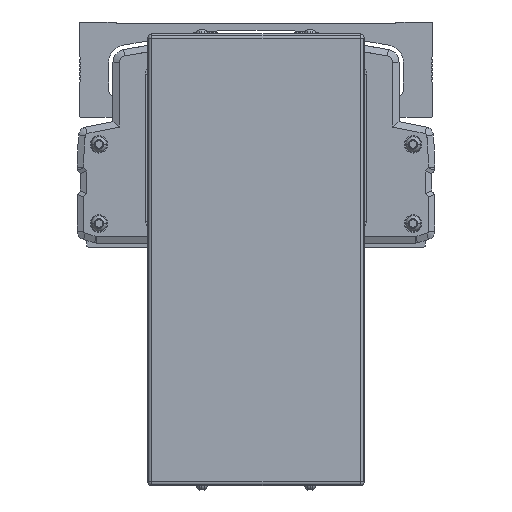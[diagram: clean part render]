
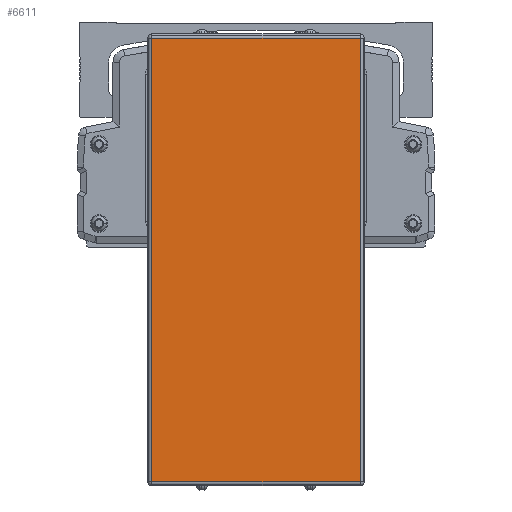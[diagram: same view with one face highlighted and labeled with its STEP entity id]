
A CAD part, front view. The second image highlights one B-rep face of the part: STEP entity #6611.
In plain terms, the highlighted planar face has unit normal (0, -1, 0).
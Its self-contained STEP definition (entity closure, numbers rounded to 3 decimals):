
#6611=ADVANCED_FACE('',(#13540),#13541,.T.);
#13540=FACE_OUTER_BOUND('',#22972,.T.);
#13541=PLANE('',#22973);
#22972=EDGE_LOOP('',(#42598,#42599,#42600,#42601));
#22973=AXIS2_PLACEMENT_3D('',#42602,#42603,#42604);
#42598=ORIENTED_EDGE('',*,*,#49264,.F.);
#42599=ORIENTED_EDGE('',*,*,#45948,.F.);
#42600=ORIENTED_EDGE('',*,*,#50277,.F.);
#42601=ORIENTED_EDGE('',*,*,#50913,.F.);
#42602=CARTESIAN_POINT('',(-600.,-272.778,-57.8));
#42603=DIRECTION('',(0.,-1.0,0.));
#42604=DIRECTION('',(0.,0.,-1.0));
#45948=EDGE_CURVE('',#55258,#55260,#55261,.T.);
#49264=EDGE_CURVE('',#55260,#60478,#60479,.T.);
#50277=EDGE_CURVE('',#61947,#55258,#61949,.T.);
#50913=EDGE_CURVE('',#60478,#61947,#62751,.T.);
#55258=VERTEX_POINT('',#68379);
#55260=VERTEX_POINT('',#68381);
#55261=LINE('',#68382,#68383);
#60478=VERTEX_POINT('',#76354);
#60479=LINE('',#76355,#76356);
#61947=VERTEX_POINT('',#78586);
#61949=LINE('',#78588,#78589);
#62751=LINE('',#79811,#79812);
#68379=CARTESIAN_POINT('',(-648.,-272.778,-160.1));
#68381=CARTESIAN_POINT('',(-648.,-272.778,44.5));
#68382=CARTESIAN_POINT('',(-648.,-272.778,-57.8));
#68383=VECTOR('',#84911,10.0);
#76354=CARTESIAN_POINT('',(-552.,-272.778,44.5));
#76355=CARTESIAN_POINT('',(-600.,-272.778,44.5));
#76356=VECTOR('',#88969,10.0);
#78586=CARTESIAN_POINT('',(-552.,-272.778,-160.1));
#78588=CARTESIAN_POINT('',(-600.,-272.778,-160.1));
#78589=VECTOR('',#90214,10.0);
#79811=CARTESIAN_POINT('',(-552.,-272.778,-57.8));
#79812=VECTOR('',#90879,10.0);
#84911=DIRECTION('',(0.,0.,1.0));
#88969=DIRECTION('',(1.0,0.,0.));
#90214=DIRECTION('',(-1.0,0.,0.));
#90879=DIRECTION('',(0.,0.,-1.0));
